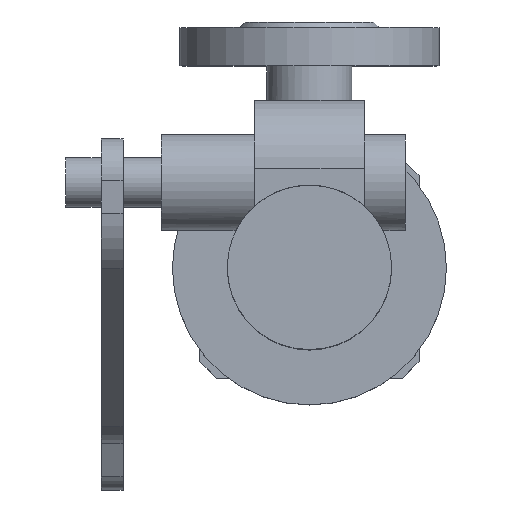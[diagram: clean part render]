
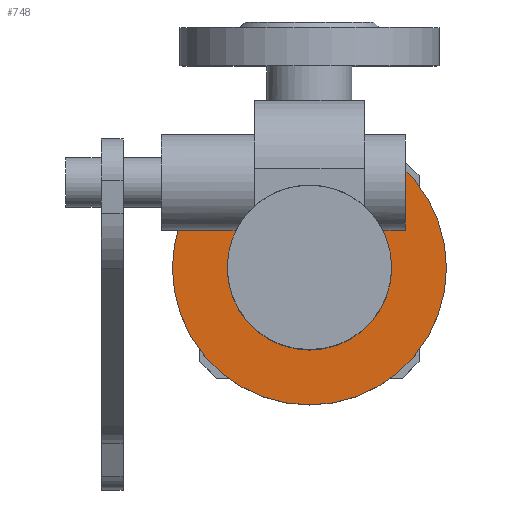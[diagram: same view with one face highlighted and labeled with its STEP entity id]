
A CAD part, top view. The second image highlights one B-rep face of the part: STEP entity #748.
In plain terms, the highlighted planar face has unit normal (0, 0, 1).
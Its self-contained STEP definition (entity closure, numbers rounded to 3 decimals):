
#748=ADVANCED_FACE('',(#1678,#1680),#1682,.T.);
#1678=FACE_BOUND('',#1679,.T.);
#1679=EDGE_LOOP('',(#2370));
#1680=FACE_BOUND('',#1681,.T.);
#1681=EDGE_LOOP('',(#2371));
#1682=PLANE('',#1683);
#1683=AXIS2_PLACEMENT_3D('',#1684,#1685,#1686);
#1684=CARTESIAN_POINT('',(0.,0.,267.));
#1685=DIRECTION('',(0.,0.,1.));
#1686=DIRECTION('',(0.,1.,0.));
#2370=ORIENTED_EDGE('',*,*,#2780,.F.);
#2371=ORIENTED_EDGE('',*,*,#2781,.T.);
#2780=EDGE_CURVE('',#3192,#3192,#3193,.T.);
#2781=EDGE_CURVE('',#3194,#3194,#3195,.T.);
#3192=VERTEX_POINT('',#4961);
#3193=CIRCLE('',#4962,50.);
#3194=VERTEX_POINT('',#4966);
#3195=CIRCLE('',#4967,30.);
#4961=CARTESIAN_POINT('',(0.,50.,267.));
#4962=AXIS2_PLACEMENT_3D('',#4963,#4964,#4965);
#4963=CARTESIAN_POINT('',(0.,0.,267.));
#4964=DIRECTION('',(0.,0.,-1.));
#4965=DIRECTION('',(0.,1.,0.));
#4966=CARTESIAN_POINT('',(0.,30.,267.));
#4967=AXIS2_PLACEMENT_3D('',#4968,#4969,#4970);
#4968=CARTESIAN_POINT('',(0.,0.,267.));
#4969=DIRECTION('',(0.,0.,-1.));
#4970=DIRECTION('',(0.,1.,0.));
